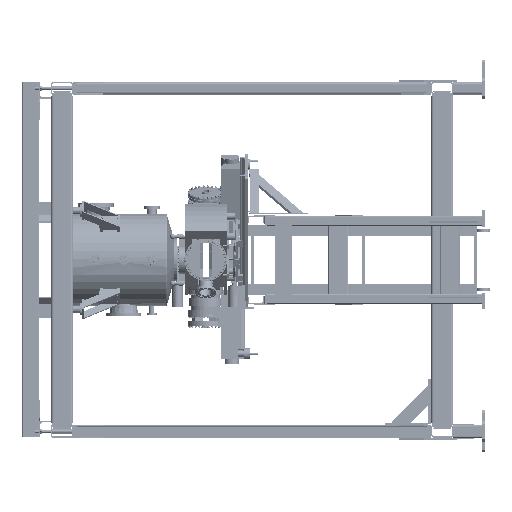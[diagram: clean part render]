
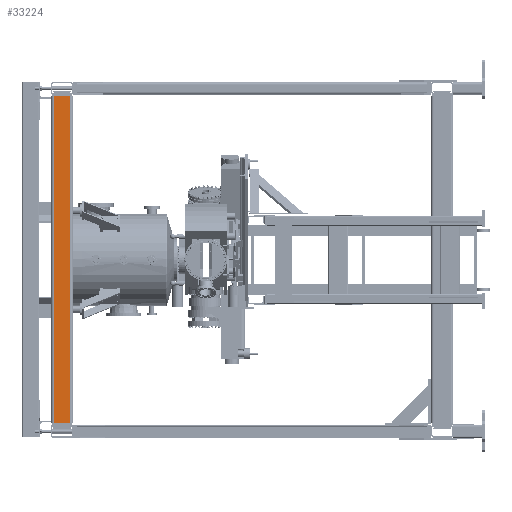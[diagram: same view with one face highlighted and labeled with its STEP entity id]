
A CAD part, left-side view. The second image highlights one B-rep face of the part: STEP entity #33224.
In plain terms, the highlighted planar face has unit normal (-1, 0, 0) as drawn and (1, 0, 0) by its records, which use the part's own axes.
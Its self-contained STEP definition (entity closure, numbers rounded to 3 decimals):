
#290 = CARTESIAN_POINT ( 'NONE',  ( 1335., 0., 975. ) ) ;
#32111 = CARTESIAN_POINT ( 'NONE',  ( 1335., 0., 1095. ) ) ;
#33224 = ADVANCED_FACE ( 'NONE', ( #58642 ), #60511, .T. ) ;
#35748 = DIRECTION ( 'NONE',  ( 0., 0., 1. ) ) ;
#58642 = FACE_OUTER_BOUND ( 'NONE', #364011, .T. ) ;
#59035 = DIRECTION ( 'NONE',  ( 0., 1., 0. ) ) ;
#60511 = PLANE ( 'NONE',  #347369 ) ;
#68918 = VERTEX_POINT ( 'NONE', #234147 ) ;
#69138 = VECTOR ( 'NONE', #35748, 1000. ) ;
#74577 = VECTOR ( 'NONE', #59035, 1000. ) ;
#76656 = LINE ( 'NONE', #213349, #178353 ) ;
#96336 = EDGE_CURVE ( 'NONE', #281598, #68918, #320339, .T. ) ;
#96501 = CARTESIAN_POINT ( 'NONE',  ( 1335., -1172.5, 1095. ) ) ;
#114883 = ORIENTED_EDGE ( 'NONE', *, *, #290034, .T. ) ;
#131545 = EDGE_CURVE ( 'NONE', #196599, #292569, #159739, .T. ) ;
#140813 = LINE ( 'NONE', #290, #74577 ) ;
#147868 = DIRECTION ( 'NONE',  ( 0., 1., 0. ) ) ;
#149932 = ORIENTED_EDGE ( 'NONE', *, *, #131545, .F. ) ;
#159739 = LINE ( 'NONE', #357055, #336662 ) ;
#178353 = VECTOR ( 'NONE', #306185, 1000. ) ;
#196599 = VERTEX_POINT ( 'NONE', #291436 ) ;
#213349 = CARTESIAN_POINT ( 'NONE',  ( 1335., 0., 1095. ) ) ;
#234147 = CARTESIAN_POINT ( 'NONE',  ( 1335., 1172.5, 1095. ) ) ;
#263720 = ORIENTED_EDGE ( 'NONE', *, *, #96336, .T. ) ;
#273495 = DIRECTION ( 'NONE',  ( 0., 0., 1. ) ) ;
#281598 = VERTEX_POINT ( 'NONE', #317669 ) ;
#290034 = EDGE_CURVE ( 'NONE', #196599, #281598, #140813, .T. ) ;
#291436 = CARTESIAN_POINT ( 'NONE',  ( 1335., -1172.5, 975. ) ) ;
#292569 = VERTEX_POINT ( 'NONE', #96501 ) ;
#293706 = CARTESIAN_POINT ( 'NONE',  ( 1335., 1172.5, 1035. ) ) ;
#306185 = DIRECTION ( 'NONE',  ( 0., 1., 0. ) ) ;
#307633 = EDGE_CURVE ( 'NONE', #292569, #68918, #76656, .T. ) ;
#311075 = ORIENTED_EDGE ( 'NONE', *, *, #307633, .F. ) ;
#317669 = CARTESIAN_POINT ( 'NONE',  ( 1335., 1172.5, 975. ) ) ;
#320339 = LINE ( 'NONE', #293706, #69138 ) ;
#324145 = DIRECTION ( 'NONE',  ( 1., 0., 0. ) ) ;
#336662 = VECTOR ( 'NONE', #273495, 1000. ) ;
#347369 = AXIS2_PLACEMENT_3D ( 'NONE', #32111, #324145, #147868 ) ;
#357055 = CARTESIAN_POINT ( 'NONE',  ( 1335., -1172.5, 1035. ) ) ;
#364011 = EDGE_LOOP ( 'NONE', ( #263720, #311075, #149932, #114883 ) ) ;
